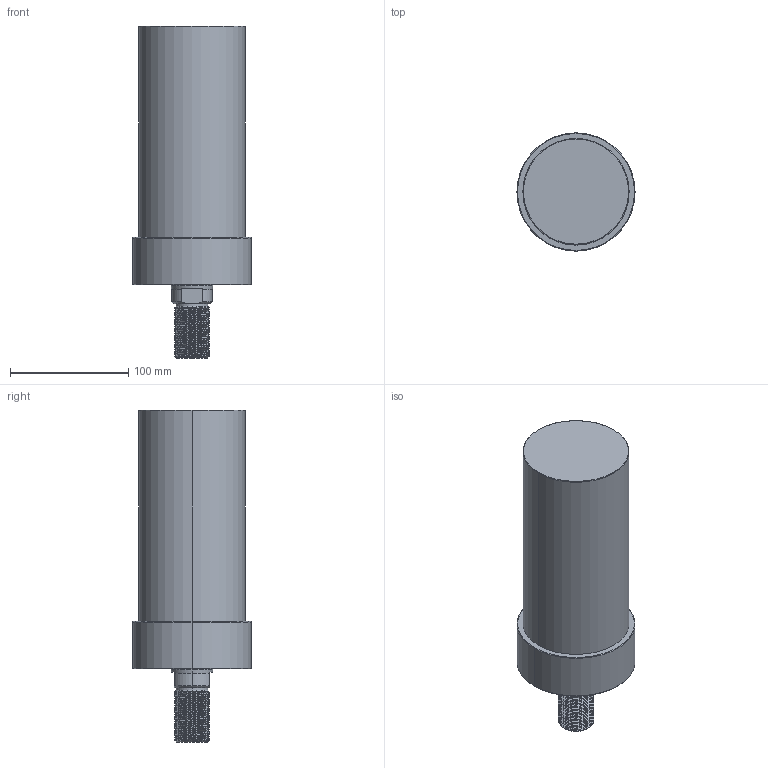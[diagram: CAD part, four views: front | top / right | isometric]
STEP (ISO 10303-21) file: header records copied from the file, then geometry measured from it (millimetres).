
FILE_DESCRIPTION (( 'STEP AP203' ), '1' );
FILE_NAME ('CLLU-090GT-135.STEP', '2020-01-15T01:34:00', ( '' ), ( '' ), 'SwSTEP 2.0', 'SolidWorks 2015', '' );
FILE_SCHEMA (( 'CONFIG_CONTROL_DESIGN' ));
Length unit declared in the file: millimetre
Products named in the file (1): CLLU-090GT-135
Bounding box: 100 x 100 x 281 mm (x, y, z)
Volume: 1490700 mm3; surface area: 90865.5 mm2
Topology: 1 solids, 1 shells, 125 faces, 326 edges, 204 vertices
Faces by surface type: cylinder 79, cone 26, plane 12, torus 6, bspline 2
Entity records: 7191 total; most frequent: CARTESIAN_POINT 4402, ORIENTED_EDGE 636, DIRECTION 515, EDGE_CURVE 318, VERTEX_POINT 204, AXIS2_PLACEMENT_3D 202, EDGE_LOOP 134, FACE_OUTER_BOUND 125
